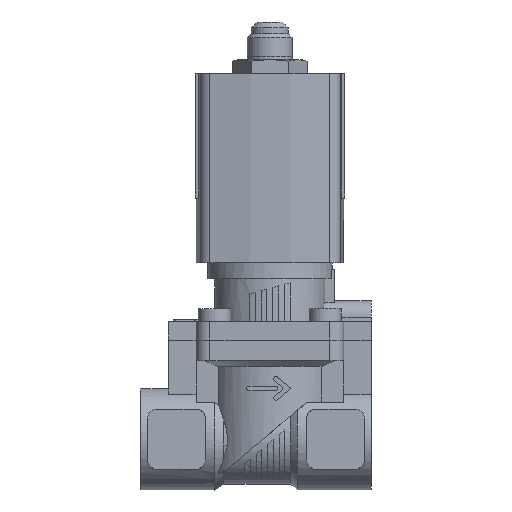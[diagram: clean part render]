
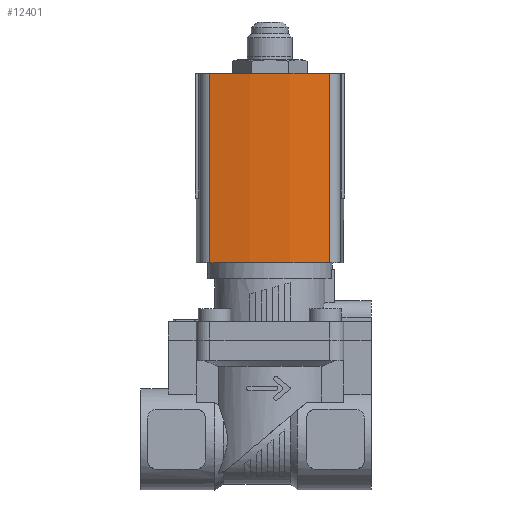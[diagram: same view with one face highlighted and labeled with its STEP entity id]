
A CAD part, top view. The second image highlights one B-rep face of the part: STEP entity #12401.
In plain terms, the highlighted cylindrical face has radius 60 mm (diameter 120 mm), a partial arc.
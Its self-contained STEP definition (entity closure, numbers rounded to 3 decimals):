
#233=CYLINDRICAL_SURFACE('',#13241,60.);
#1201=LINE('',#18960,#2251);
#1202=LINE('',#18964,#2252);
#2251=VECTOR('',#15704,1000.);
#2252=VECTOR('',#15709,1000.);
#4524=ORIENTED_EDGE('',*,*,#6509,.T.);
#4525=ORIENTED_EDGE('',*,*,#6510,.F.);
#4526=ORIENTED_EDGE('',*,*,#5795,.F.);
#4527=ORIENTED_EDGE('',*,*,#6508,.T.);
#5795=EDGE_CURVE('',#7033,#7034,#7755,.T.);
#6508=EDGE_CURVE('',#7033,#7539,#1201,.T.);
#6509=EDGE_CURVE('',#7539,#7540,#7849,.T.);
#6510=EDGE_CURVE('',#7034,#7540,#1202,.T.);
#7033=VERTEX_POINT('',#17614);
#7034=VERTEX_POINT('',#17616);
#7539=VERTEX_POINT('',#18959);
#7540=VERTEX_POINT('',#18963);
#7755=CIRCLE('',#13021,60.);
#7849=CIRCLE('',#13242,60.);
#8266=EDGE_LOOP('',(#4524,#4525,#4526,#4527));
#8845=FACE_BOUND('',#8266,.T.);
#12401=ADVANCED_FACE('',(#8845),#233,.T.);
#13021=AXIS2_PLACEMENT_3D('',#17615,#14645,#14646);
#13241=AXIS2_PLACEMENT_3D('',#18961,#15705,#15706);
#13242=AXIS2_PLACEMENT_3D('',#18962,#15707,#15708);
#14645=DIRECTION('',(0.,1.,0.));
#14646=DIRECTION('',(1.,0.,0.));
#15704=DIRECTION('',(0.,-1.,0.));
#15705=DIRECTION('',(0.,-1.,0.));
#15706=DIRECTION('',(0.,0.,-1.));
#15707=DIRECTION('',(0.,1.,0.));
#15708=DIRECTION('',(1.,0.,0.));
#15709=DIRECTION('',(0.,-1.,0.));
#17614=CARTESIAN_POINT('',(19.078,15.,12.986));
#17615=CARTESIAN_POINT('',(-39.5,15.,0.));
#17616=CARTESIAN_POINT('',(19.078,15.,-12.986));
#18959=CARTESIAN_POINT('',(19.078,-26.,12.986));
#18960=CARTESIAN_POINT('',(19.078,15.,12.986));
#18961=CARTESIAN_POINT('',(-39.5,15.,0.));
#18962=CARTESIAN_POINT('',(-39.5,-26.,0.));
#18963=CARTESIAN_POINT('',(19.078,-26.,-12.986));
#18964=CARTESIAN_POINT('',(19.078,15.,-12.986));
